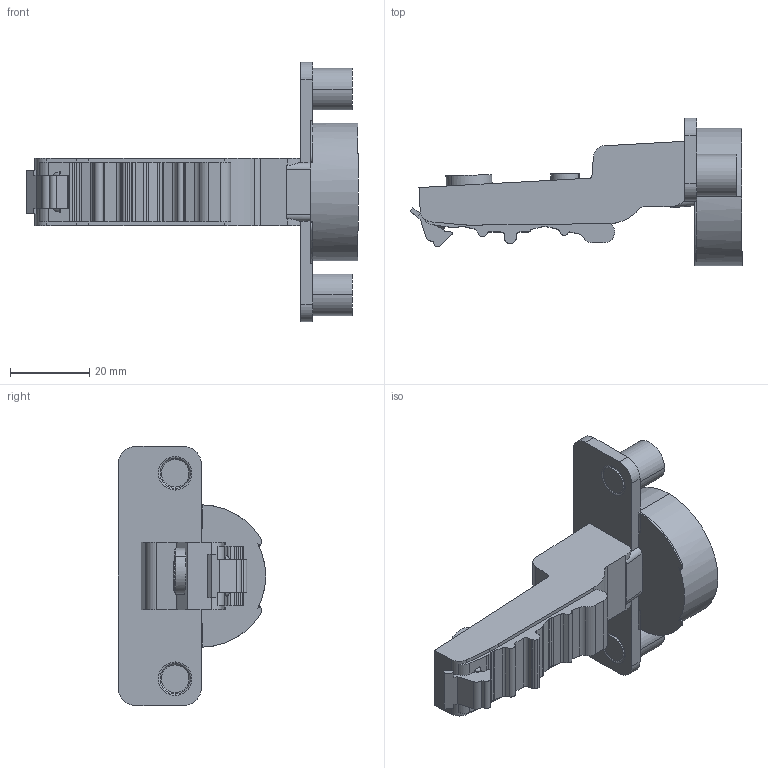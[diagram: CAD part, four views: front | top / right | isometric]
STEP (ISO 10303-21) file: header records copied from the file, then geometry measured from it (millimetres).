
FILE_DESCRIPTION (( 'STEP AP203' ), '1' );
FILE_NAME ('C82B677MFA-DTC 3D close.STEP', '2024-07-10T09:06:53', ( '微软用户' ), ( '微软中国' ), 'SwSTEP 2.0', 'SolidWorks 2021', '' );
FILE_SCHEMA (( 'CONFIG_CONTROL_DESIGN' ));
Length unit declared in the file: millimetre
Products named in the file (1): C82B677MFA-DTC 3D close
Bounding box: 83.97 x 37.28 x 65.56 mm (x, y, z)
Volume: 33808.4 mm3; surface area: 10896.6 mm2
Topology: 1 solids, 2 shells, 173 faces, 483 edges, 320 vertices
Faces by surface type: plane 76, cylinder 73, torus 12, bspline 8, cone 4
Entity records: 5918 total; most frequent: CARTESIAN_POINT 1381, ORIENTED_EDGE 966, DIRECTION 931, EDGE_CURVE 483, AXIS2_PLACEMENT_3D 338, VERTEX_POINT 320, VECTOR 255, LINE 255
